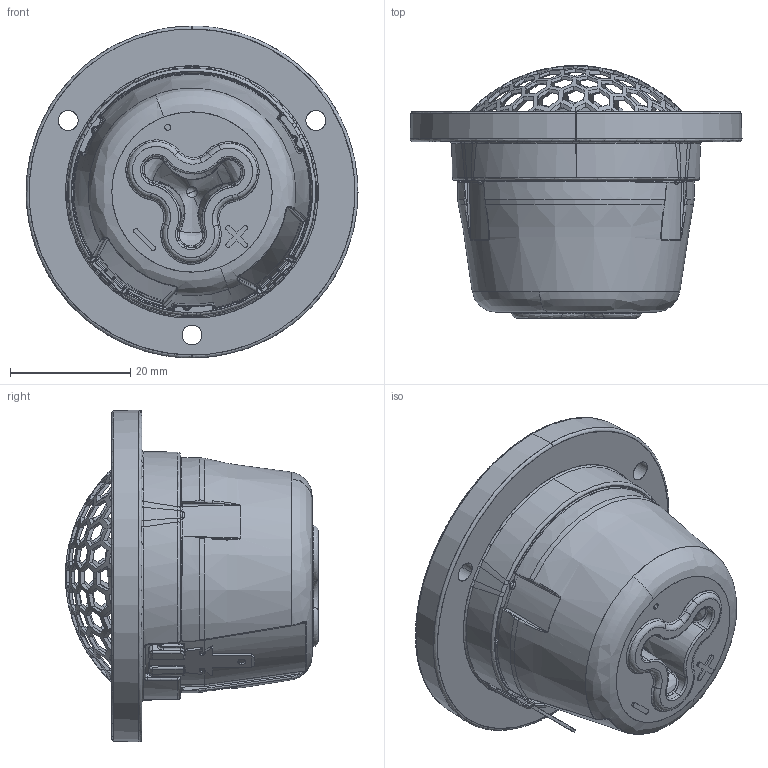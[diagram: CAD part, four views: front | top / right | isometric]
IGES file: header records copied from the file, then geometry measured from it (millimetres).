
Start section: SolidWorks IGES file using analytic representation for surfaces
Global section: file name: W:\TT\WEB 3D ENHEDER VER2\D2004_602000\D2004_602000.IGS; native system: SolidWorks 2019; preprocessor: SolidWorks 2019; author: mhn; date: 201103.114600; units: millimetre
Bounding box: 55.26 x 42.01 x 55.26 mm (x, y, z)
Surface area: 14277 mm2 (no closed solid volume)
Topology: 0 solids, 0 shells, 1362 faces, 11452 edges, 11436 vertices
Faces by surface type: bspline 1015, revolution 347
